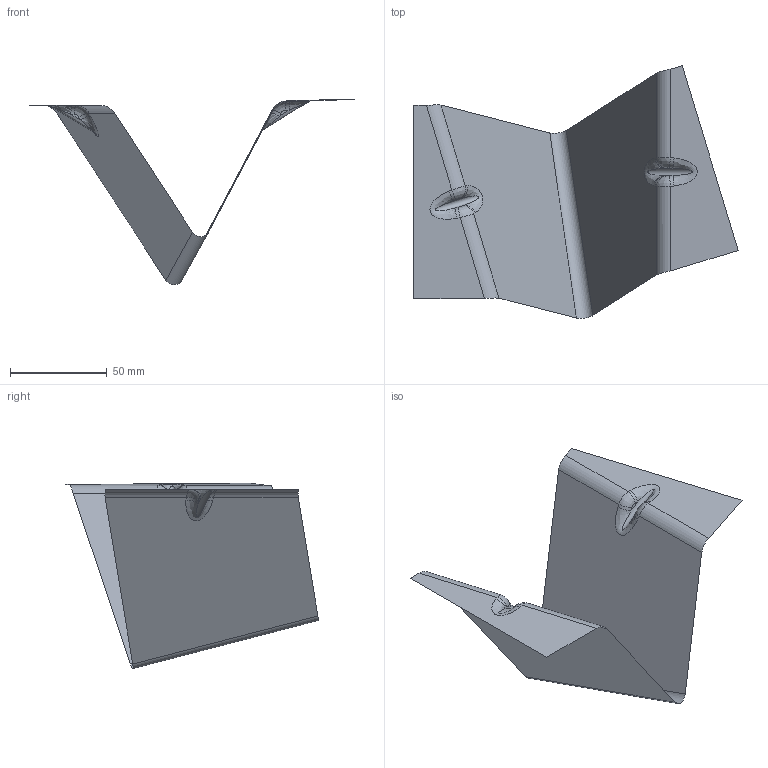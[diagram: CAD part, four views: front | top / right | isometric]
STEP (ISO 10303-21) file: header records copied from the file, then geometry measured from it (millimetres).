
FILE_DESCRIPTION(('CATIA V5 STEP Exchange'),'2;1');
FILE_NAME('C:\_Andres\UNIVERSIDAD\IQS\ASIGNATURAS\DAO\EXF\EXF-16172c\2inicio\Puig_Bataller_Ej03_v24.stp','2017-03-05T19:32:25+00:00',('none'),('none'),'CATIA Version 5-6 Release 2014 SP1 HF18','CATIA V5 STEP AP203','none');
FILE_SCHEMA(('CONFIG_CONTROL_DESIGN'));
Length unit declared in the file: millimetre
Products named in the file (1): Puig_Bataller_Ej03_v24
Bounding box: 168.01 x 130.77 x 95.95 mm (x, y, z)
Surface area: 25172.5 mm2 (no closed solid volume)
Topology: 0 solids, 1 shells, 31 faces, 78 edges, 48 vertices
Faces by surface type: cylinder 15, plane 8, bspline 8
Entity records: 2443 total; most frequent: CARTESIAN_POINT 1770, ORIENTED_EDGE 140, DIRECTION 90, EDGE_CURVE 78, VERTEX_POINT 48, VECTOR 40, LINE 40, ADVANCED_FACE 31
